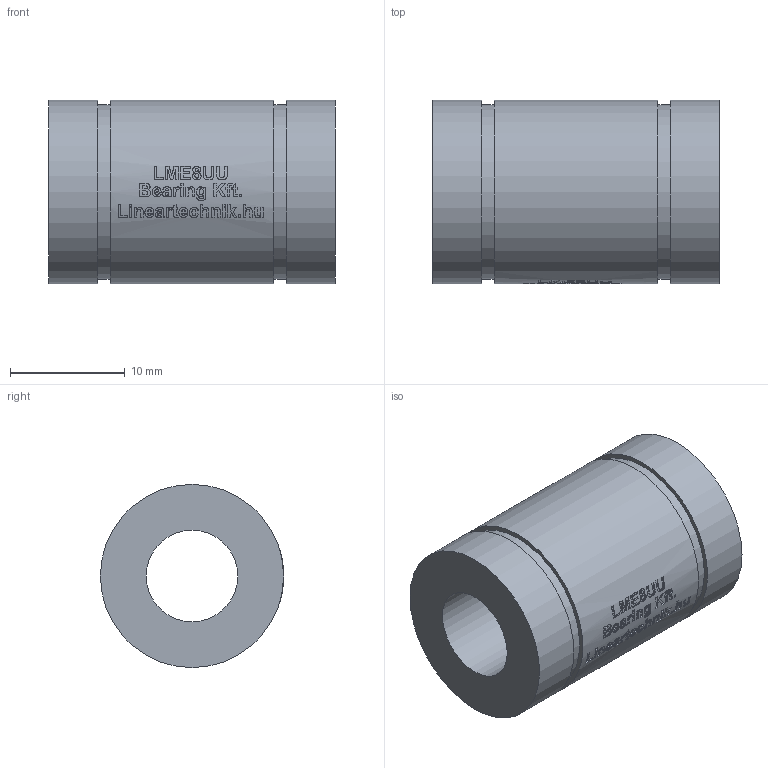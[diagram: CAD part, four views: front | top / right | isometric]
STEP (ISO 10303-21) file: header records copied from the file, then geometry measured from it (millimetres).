
FILE_DESCRIPTION(/* description */ (''),/* implementation_level */ '2;1');
FILE_NAME(/* name */ 'LME8UU',/* time_stamp */ '2019-05-17T10:33:56+02:00',/* author */ ('VĂ©gh MĂˇtĂ©'),/* organization */ ('Bearing Kft'),/* preprocessor_version */ 'ST-DEVELOPER v16.7',/* originating_system */ 'DEX',/* authorisation */ $);
FILE_SCHEMA (('AUTOMOTIVE_DESIGN {1 0 10303 214 3 1 1}'));
Length unit declared in the file: millimetre
Products named in the file (1): LME8UU
Bounding box: 25 x 16 x 16 mm (x, y, z)
Volume: 3725.5 mm3; surface area: 2274.1 mm2
Topology: 1 solids, 1 shells, 307 faces, 767 edges, 512 vertices
Faces by surface type: plane 163, bspline 92, cylinder 52
Full cylindrical faces by diameter (mm): 8 x1, 15.2 x2, 16 x3
Entity records: 14264 total; most frequent: CARTESIAN_POINT 7414, ORIENTED_EDGE 1512, DIRECTION 1148, EDGE_CURVE 756, VERTEX_POINT 510, LINE 420, VECTOR 420, EDGE_LOOP 368
